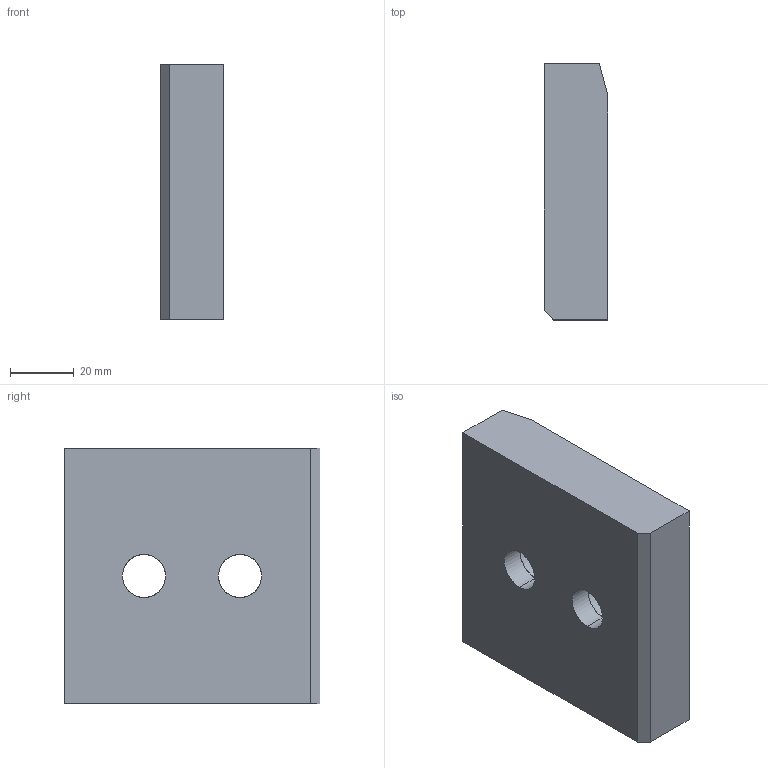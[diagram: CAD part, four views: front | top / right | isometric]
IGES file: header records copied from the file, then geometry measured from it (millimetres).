
Start section: START RECORD GO HERE.
Global section: file name: A915-80X80.igs; native system: DASSAULT SYSTEMES CATIA V5 R20 - www.3ds.com; preprocessor: CATIA Version 5 Release 20 ; author: Utente; organization: NB04-ASUS; date: 20200407.213923; units: millimetre
Bounding box: 20 x 80 x 80 mm (x, y, z)
Surface area: 20337.9 mm2 (no closed solid volume)
Topology: 0 solids, 0 shells, 23 faces, 106 edges, 106 vertices
Faces by surface type: revolution 13, extrusion 10
